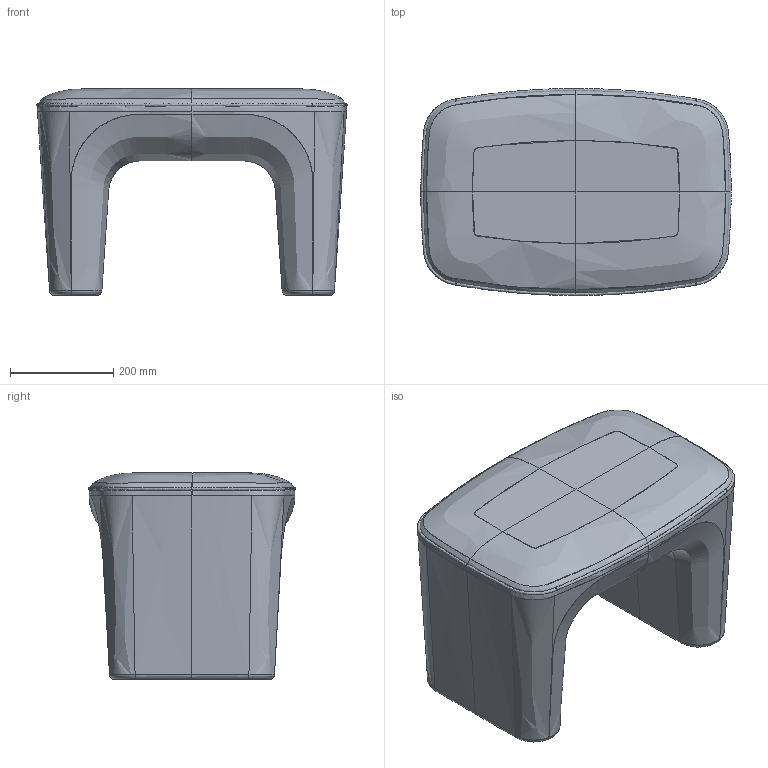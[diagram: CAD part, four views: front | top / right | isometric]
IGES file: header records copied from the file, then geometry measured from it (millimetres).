
Start section: SolidWorks IGES file using analytic representation for surfaces
Global section: file name: C:\Users\market02\Desktop\RYAN\litho modelisation\fait\PierreFrey_Delvigne_Litho_Tabouret\FLITHTT060_TABOURET_LOW STOOL.igs; native system: Rhinoceros ( Dec 14 2021 ); preprocessor: Trout Lake IGES 012 Dec 14 2021; date: 220727.081639; units: millimetre
Bounding box: 600.42 x 400.52 x 400 mm (x, y, z)
Surface area: 1021024.4 mm2 (no closed solid volume)
Topology: 0 solids, 0 shells, 69 faces, 967 edges, 954 vertices
Faces by surface type: bspline 69
